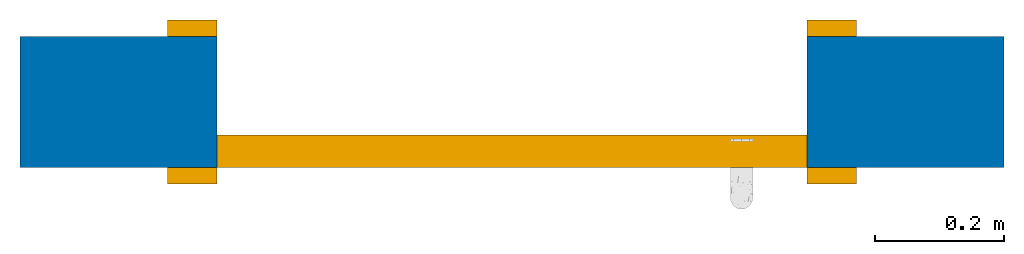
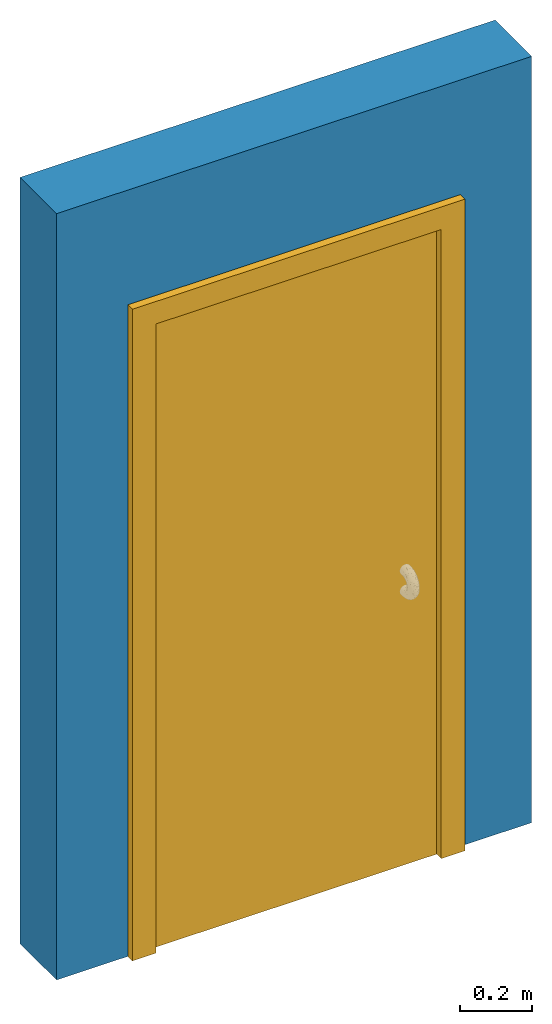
# One storey, incomplete: 1 door, 1 wall, 1 opening.
"""IFC2X3 building model written with IfcOpenShell, lengths in feet."""

from ifc_helpers import new_model, entity, si_unit, converted_unit, derived_unit, direction, frame, frame_2d, origin, place, context, subcontext, project, spatial, polyline, rectangle, outline, extrude, source, transform, mapped, material, material_list, layer, layer_set, layer_usage, type_object, type_shapes, element, fill, save


model = new_model("IFC2X3")

# Units and contexts
model_context = context("Model", 3, precision=0.0001, world=origin(), true_north=direction((6.12303176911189e-17, 1.0)))
body_context = subcontext(model_context, "Body", "Model", "MODEL_VIEW")
ifc_project = project(units=[converted_unit("LENGTHUNIT", "FOOT", entity("IfcRatioMeasure", 0.3048), si_unit("LENGTHUNIT", "METRE"), dimensions=[1, 0, 0, 0, 0, 0, 0]), converted_unit("AREAUNIT", "SQUARE FOOT", entity("IfcRatioMeasure", 0.09290304), si_unit("AREAUNIT", "SQUARE_METRE"), dimensions=[2, 0, 0, 0, 0, 0, 0]), converted_unit("VOLUMEUNIT", "CUBIC FOOT", entity("IfcRatioMeasure", 0.028316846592), si_unit("VOLUMEUNIT", "CUBIC_METRE"), dimensions=[3, 0, 0, 0, 0, 0, 0]), converted_unit("PLANEANGLEUNIT", "DEGREE", entity("IfcRatioMeasure", 0.0174532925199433), si_unit("PLANEANGLEUNIT", "RADIAN"), dimensions=[0, 0, 0, 0, 0, 0, 0]), si_unit("MASSUNIT", "GRAM", prefix="KILO"), derived_unit("MASSDENSITYUNIT", [(si_unit("MASSUNIT", "GRAM", prefix="KILO"), 1), (si_unit("LENGTHUNIT", "METRE"), -3)]), si_unit("TIMEUNIT", "SECOND"), si_unit("FREQUENCYUNIT", "HERTZ"), si_unit("THERMODYNAMICTEMPERATUREUNIT", "DEGREE_CELSIUS"), derived_unit("THERMALTRANSMITTANCEUNIT", [(si_unit("MASSUNIT", "GRAM", prefix="KILO"), 1), (si_unit("THERMODYNAMICTEMPERATUREUNIT", "KELVIN"), -1), (si_unit("TIMEUNIT", "SECOND"), -3)]), derived_unit("VOLUMETRICFLOWRATEUNIT", [(si_unit("LENGTHUNIT", "METRE"), 3), (si_unit("TIMEUNIT", "SECOND"), -1)]), si_unit("ELECTRICCURRENTUNIT", "AMPERE"), si_unit("ELECTRICVOLTAGEUNIT", "VOLT"), si_unit("POWERUNIT", "WATT"), si_unit("FORCEUNIT", "NEWTON"), si_unit("ILLUMINANCEUNIT", "LUX"), si_unit("LUMINOUSFLUXUNIT", "LUMEN"), si_unit("LUMINOUSINTENSITYUNIT", "CANDELA"), derived_unit("USERDEFINED", [(si_unit("MASSUNIT", "GRAM", prefix="KILO"), -1), (si_unit("LENGTHUNIT", "METRE"), -2), (si_unit("TIMEUNIT", "SECOND"), 3), (si_unit("LUMINOUSFLUXUNIT", "LUMEN"), 1)]), derived_unit("LINEARVELOCITYUNIT", [(si_unit("LENGTHUNIT", "METRE"), 1), (si_unit("TIMEUNIT", "SECOND"), -1)]), si_unit("PRESSUREUNIT", "PASCAL"), derived_unit("USERDEFINED", [(si_unit("LENGTHUNIT", "METRE"), -2), (si_unit("MASSUNIT", "GRAM", prefix="KILO"), 1), (si_unit("TIMEUNIT", "SECOND"), -2)])], contexts=[model_context])

# Site, building, storey
site_placement = place(None, origin())
site = spatial("IfcSite", under=ifc_project, at=site_placement, Name="Default", CompositionType="ELEMENT")
building_placement = place(site_placement, origin())
building = spatial("IfcBuilding", under=site, at=building_placement, CompositionType="ELEMENT")
storey_placement = place(building_placement, origin())
storey = spatial("IfcBuildingStorey", under=building, at=storey_placement, Name="Level 1", CompositionType="ELEMENT", Elevation=0.0)

# Wall, opening, door
ifc_material_1 = material(Name="Default Wall")
ifc_layer = layer(ifc_material_1, 0.666666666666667)
ifc_layer_set = layer_set([ifc_layer], Name="Basic Wall:Generic - 8\"")
ifc_layer_usage = layer_usage(ifc_layer_set, "AXIS2", "NEGATIVE", 0.333333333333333)
wall_type = type_object("IfcWallType", Name="Basic Wall:Generic - 8\"", PredefinedType="STANDARD", material=ifc_layer_set)
wall_placement = place(storey_placement, frame((-7.13658940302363, 6.52272376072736, 0.0)))
wall = element("IfcWallStandardCase", 1, at=wall_placement, inside=storey, type_object=wall_type, material=ifc_layer_usage, Name="Basic Wall:Generic - 8\"", ObjectType="Basic Wall:Generic - 8\"", context=body_context, shape_type="SweptSolid", body=[
    extrude(rectangle(XDim=5.0, YDim=0.666666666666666, at=frame_2d((2.5, 2.77555756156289e-17), x_axis=(-1.0, 0.0))), origin(), (0.0, 0.0, 1.0), 8.52599755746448),
])
opening_placement = place(wall_placement, frame((4.0, 0.333333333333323, 0.0)))
opening = element("IfcOpeningElement", 2, at=opening_placement, cuts=wall, Name="Single-Flush:36\" x 84\":1", ObjectType="Opening", context=body_context, shape_type="SweptSolid", body=[
    extrude(rectangle(XDim=3.0, YDim=7.0, at=frame_2d((3.5, 1.5), x_axis=(0.0, 1.0))), frame((0.0, 0.0, 0.0), z_axis=(0.0, -1.0, 0.0), x_axis=(0.0, 0.0, 1.0)), (0.0, 0.0, 1.0), 0.666666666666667),
])
ifc_material_2 = material(Name="Door - Frame")
ifc_material_3 = material(Name="Door - Panel")
ifc_material_list_1 = material_list([ifc_material_2, ifc_material_3])
ifc_material_list_2 = material_list([ifc_material_2, ifc_material_3])
door_style = type_object("IfcDoorStyle", Name="36\" x 84\"", ConstructionType="NOTDEFINED", OperationType="SINGLE_SWING_RIGHT", ParameterTakesPrecedence=False, Sizeable=False, material=ifc_material_list_2)
shared_shape = source(origin(), body_context, "Body", "SweptSolid", [
    extrude(outline(polyline([(-1.75, -3.6875), (1.75, -3.6875), (1.75, 3.5625), (1.5, 3.5625), (1.5, -3.43750000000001), (-1.5, -3.43750000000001), (-1.5, 3.5625), (-1.75, 3.5625), (-1.75, -3.6875)])), frame((1.5, 0.666666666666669, 3.5625), z_axis=(0.0, 1.0, 0.0), x_axis=(1.0, 0.0, 0.0)), (0.0, 0.0, 1.0), 0.0833333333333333),
    extrude(outline(polyline([(-3.6875, -1.74999999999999), (3.5625, -1.74999999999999), (3.5625, -1.50000000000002), (-3.4375, -1.50000000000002), (-3.4375, 1.50000000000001), (3.5625, 1.50000000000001), (3.5625, 1.75000000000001), (-3.6875, 1.75000000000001), (-3.6875, -1.74999999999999)])), frame((1.50000000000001, -0.0833333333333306, 3.5625), z_axis=(0.0, 1.0, 0.0), x_axis=(0.0, 0.0, -1.0)), (0.0, 0.0, 1.0), 0.0833333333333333),
    extrude(rectangle(XDim=0.166666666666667, YDim=3.0, at=frame_2d((-1.38777878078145e-17, 0.0), x_axis=(1.0, 0.0))), frame((1.5, 0.583333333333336, 0.0), z_axis=(0.0, 0.0, 1.0), x_axis=(0.0, 1.0, 0.0)), (0.0, 0.0, 1.0), 7.0),
])
type_shapes(door_style, [shared_shape])
door_placement = place(opening_placement, frame((0.0, 0.0, 0.0), z_axis=(0.0, 0.0, 1.0), x_axis=(-1.0, 0.0, 0.0)))
door = element("IfcDoor", 3, at=door_placement, inside=storey, type_object=door_style, material=ifc_material_list_1, Name="Single-Flush:36\" x 84\"", ObjectType="Single-Flush:36\" x 84\"", OverallHeight=7.0, OverallWidth=3.0, context=body_context, shape_type="MappedRepresentation", body=[
    mapped(shared_shape, transform((0.0, 0.0, 0.0), scale=1.0)),
])
fill(opening, door)

save(model, "model.ifc")
